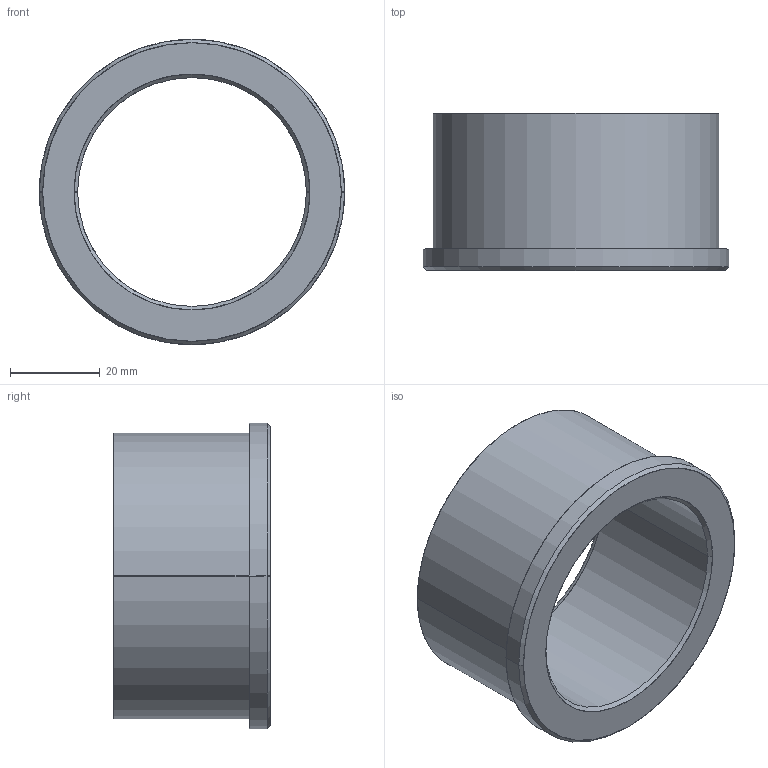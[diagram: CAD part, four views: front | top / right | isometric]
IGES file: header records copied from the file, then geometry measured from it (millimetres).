
Start section: SolidWorks IGES file using analytic representation for surfaces
Global section: file name: C:\Users\Ryan\Documents\PCS\Shoulder Bushings - Bronze Plated\LBB 16-13.igs; native system: SolidWorks 2009; preprocessor: SolidWorks 2009; author: Ryan; date: 140913.211941; units: inch
Bounding box: 68 x 34.92 x 68 mm (x, y, z)
Surface area: 15541.5 mm2 (no closed solid volume)
Topology: 0 solids, 0 shells, 15 faces, 432 edges, 432 vertices
Faces by surface type: revolution 10, bspline 5
